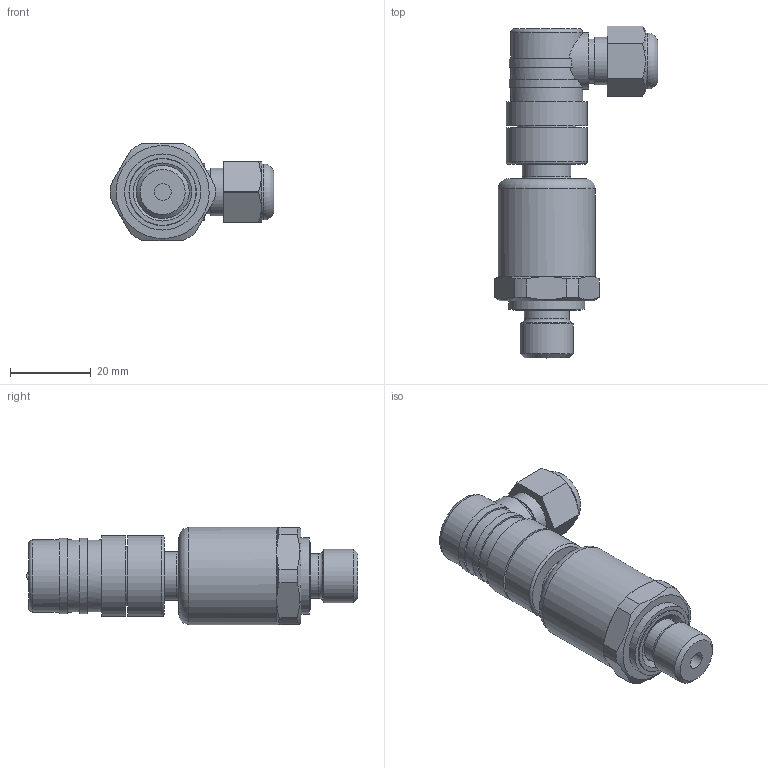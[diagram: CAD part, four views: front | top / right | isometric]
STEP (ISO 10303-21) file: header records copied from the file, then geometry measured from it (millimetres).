
FILE_DESCRIPTION(/* description */ (''),/* implementation_level */ '2;1');
FILE_NAME(/* name */ '528.XXXXXX34XX_mit Steckdose.stp',/* time_stamp */ '2021-04-29T09:28:22+02:00',/* author */ (''),/* organization */ (''),/* preprocessor_version */ 'ST-DEVELOPER v16.7',/* originating_system */ 'SIEMENS PLM Software NX 12.0',/* authorisation */ '');
FILE_SCHEMA (('AUTOMOTIVE_DESIGN { 1 0 10303 214 3 1 1 1 }'));
Length unit declared in the file: millimetre
Products named in the file (1): model5
Bounding box: 40.49 x 82.01 x 24 mm (x, y, z)
Volume: 25037.2 mm3; surface area: 11787.4 mm2
Topology: 3 solids, 5 shells, 155 faces, 339 edges, 223 vertices
Faces by surface type: plane 67, cylinder 56, cone 16, torus 11, bspline 5
Full cylindrical faces by diameter (mm): 0.8 x1, 1.1 x4, 1.2 x3, 1.5 x2, 4.2 x1, 7 x1, 7.3 x1, 10 x1, 10.4 x1, 10.85 x1, 10.985 x1, 11.1 x1, 11.188 x1, 11.6 x1, 11.794 x1, 12 x1, 13.157 x1, 13.8 x1, 14 x1, 14.5 x2, 14.8 x1, 16.5 x1, 16.65 x1, 17.8 x3, 18 x1, 18.8 x1, 20 x2, 24 x1
Entity records: 4986 total; most frequent: CARTESIAN_POINT 1183, DIRECTION 648, ORIENTED_EDGE 516, AXIS2_PLACEMENT_3D 283, EDGE_CURVE 258, EDGE_LOOP 244, VERTEX_POINT 199, FACE_BOUND 171
